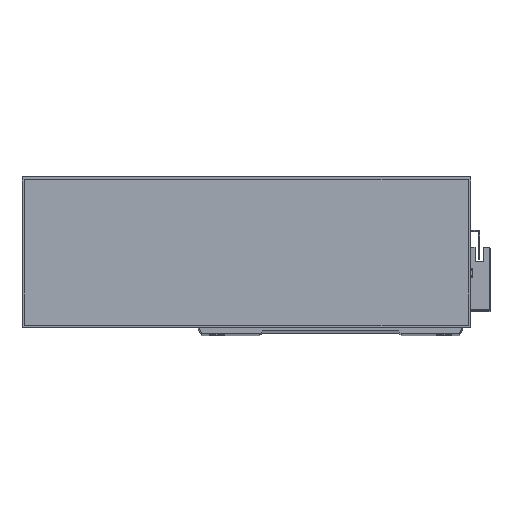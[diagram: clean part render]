
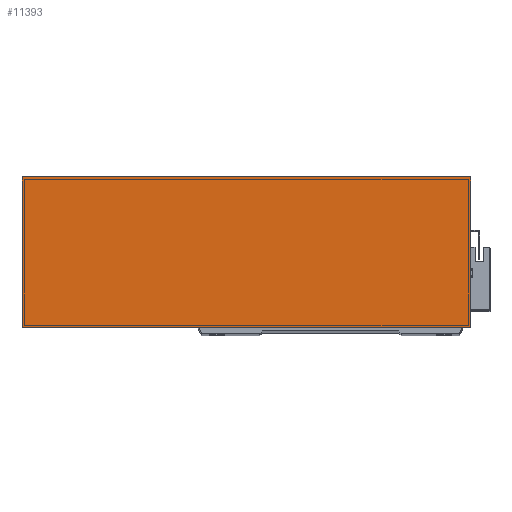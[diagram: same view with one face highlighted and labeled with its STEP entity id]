
A CAD part, top view. The second image highlights one B-rep face of the part: STEP entity #11393.
In plain terms, the highlighted planar face has unit normal (0, 0, 1).
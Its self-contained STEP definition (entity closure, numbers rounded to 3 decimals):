
#324 = CARTESIAN_POINT ( 'NONE',  ( 0., 93., 50. ) ) ;
#767 = PLANE ( 'NONE',  #15470 ) ;
#805 = VERTEX_POINT ( 'NONE', #7215 ) ;
#3347 = EDGE_CURVE ( 'NONE', #21846, #5299, #20642, .T. ) ;
#3414 = EDGE_CURVE ( 'NONE', #805, #21846, #5436, .T. ) ;
#4092 = ORIENTED_EDGE ( 'NONE', *, *, #3347, .T. ) ;
#5299 = VERTEX_POINT ( 'NONE', #20625 ) ;
#5436 = LINE ( 'NONE', #324, #28268 ) ;
#5558 = VECTOR ( 'NONE', #12248, 1000. ) ;
#7215 = CARTESIAN_POINT ( 'NONE',  ( 277., 93., 50. ) ) ;
#8220 = VECTOR ( 'NONE', #10607, 1000. ) ;
#8229 = CARTESIAN_POINT ( 'NONE',  ( 277., 0., 50. ) ) ;
#9610 = DIRECTION ( 'NONE',  ( -1., 0., 0. ) ) ;
#10607 = DIRECTION ( 'NONE',  ( 0., -1., 0. ) ) ;
#11110 = ORIENTED_EDGE ( 'NONE', *, *, #21272, .T. ) ;
#11393 = ADVANCED_FACE ( 'NONE', ( #15736 ), #767, .F. ) ;
#12248 = DIRECTION ( 'NONE',  ( 0., 1., 0. ) ) ;
#13470 = EDGE_CURVE ( 'NONE', #17002, #805, #15839, .T. ) ;
#13547 = DIRECTION ( 'NONE',  ( -1., 0., 0. ) ) ;
#13851 = ORIENTED_EDGE ( 'NONE', *, *, #3414, .T. ) ;
#13988 = CARTESIAN_POINT ( 'NONE',  ( 0., 0., 50. ) ) ;
#14522 = VECTOR ( 'NONE', #20192, 1000. ) ;
#15470 = AXIS2_PLACEMENT_3D ( 'NONE', #13988, #22858, #9610 ) ;
#15736 = FACE_OUTER_BOUND ( 'NONE', #19658, .T. ) ;
#15839 = LINE ( 'NONE', #25494, #5558 ) ;
#17002 = VERTEX_POINT ( 'NONE', #8229 ) ;
#17080 = CARTESIAN_POINT ( 'NONE',  ( 0., 0., 50. ) ) ;
#18066 = CARTESIAN_POINT ( 'NONE',  ( 0., 0., 50. ) ) ;
#19658 = EDGE_LOOP ( 'NONE', ( #4092, #11110, #25623, #13851 ) ) ;
#20192 = DIRECTION ( 'NONE',  ( 1., 0., 0. ) ) ;
#20625 = CARTESIAN_POINT ( 'NONE',  ( 0., 0., 50. ) ) ;
#20642 = LINE ( 'NONE', #17080, #8220 ) ;
#21254 = CARTESIAN_POINT ( 'NONE',  ( 0., 93., 50. ) ) ;
#21272 = EDGE_CURVE ( 'NONE', #5299, #17002, #27664, .T. ) ;
#21846 = VERTEX_POINT ( 'NONE', #21254 ) ;
#22858 = DIRECTION ( 'NONE',  ( 0., 0., -1. ) ) ;
#25494 = CARTESIAN_POINT ( 'NONE',  ( 277., 0., 50. ) ) ;
#25623 = ORIENTED_EDGE ( 'NONE', *, *, #13470, .T. ) ;
#27664 = LINE ( 'NONE', #18066, #14522 ) ;
#28268 = VECTOR ( 'NONE', #13547, 1000. ) ;
